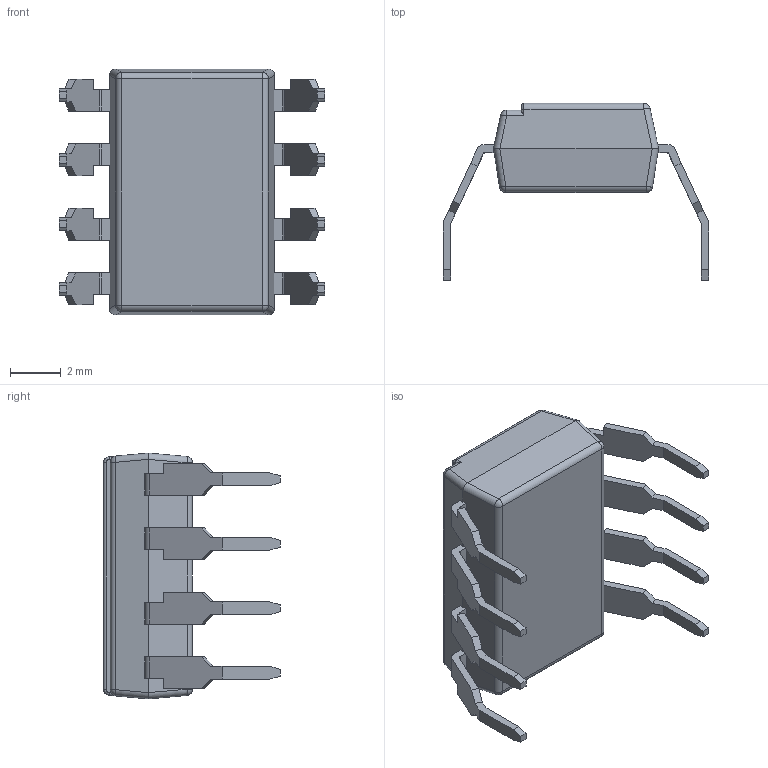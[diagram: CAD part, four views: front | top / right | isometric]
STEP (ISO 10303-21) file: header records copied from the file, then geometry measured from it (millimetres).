
FILE_DESCRIPTION(/* description */ ('STEP AP203'),/* implementation_level */ '2;1');
FILE_NAME(/* name */ 'H:\COPYBOX\Miro\Achim Kruck\DIP-8_400mil\DIP-8_400mil.stp',/* time_stamp */ '2018-10-11T14:40:21+02:00',/* author */ ('mmangarudov'),/* organization */ (''),/* preprocessor_version */ 'ST-DEVELOPER v16.1',/* originating_system */ 'Autodesk Inventor 2016',/* authorisation */ '');
FILE_SCHEMA (('AUTOMOTIVE_DESIGN { 1 0 10303 214 3 1 1 }'));
Length unit declared in the file: millimetre
Products named in the file (1): 8P-M
Bounding box: 10.46 x 6.97 x 9.68 mm (x, y, z)
Volume: 214.7 mm3; surface area: 319.1 mm2
Topology: 1 solids, 1 shells, 195 faces, 559 edges, 358 vertices
Faces by surface type: plane 148, cylinder 37, sphere 8, torus 2
Entity records: 6347 total; most frequent: CARTESIAN_POINT 1179, ORIENTED_EDGE 1102, DIRECTION 1007, EDGE_CURVE 551, LINE 475, VECTOR 475, VERTEX_POINT 358, AXIS2_PLACEMENT_3D 266
